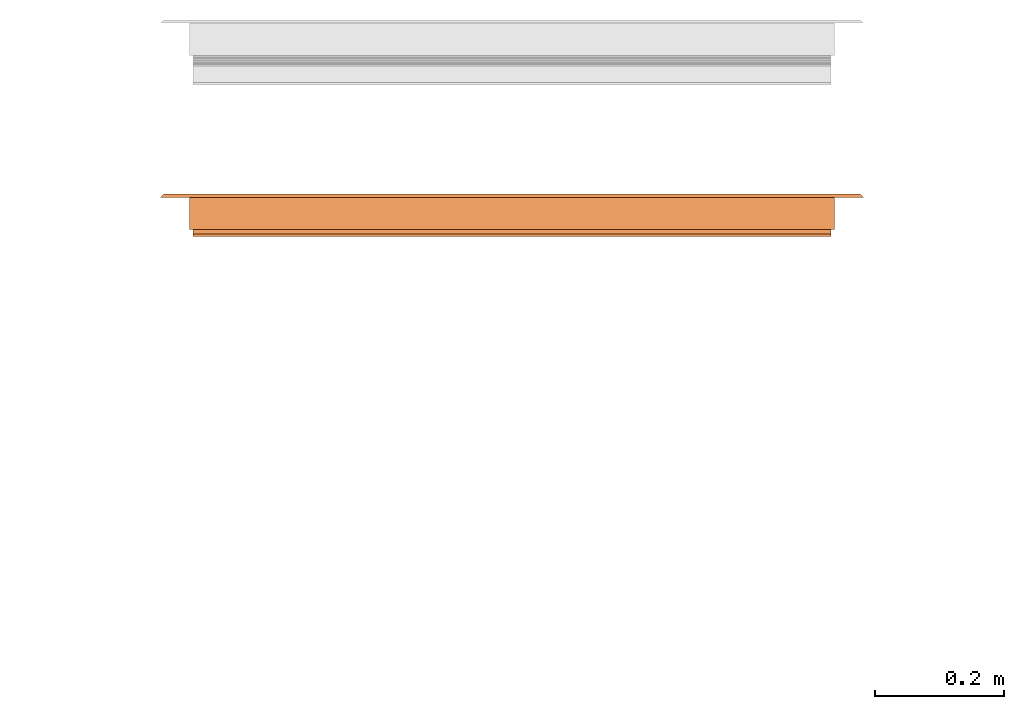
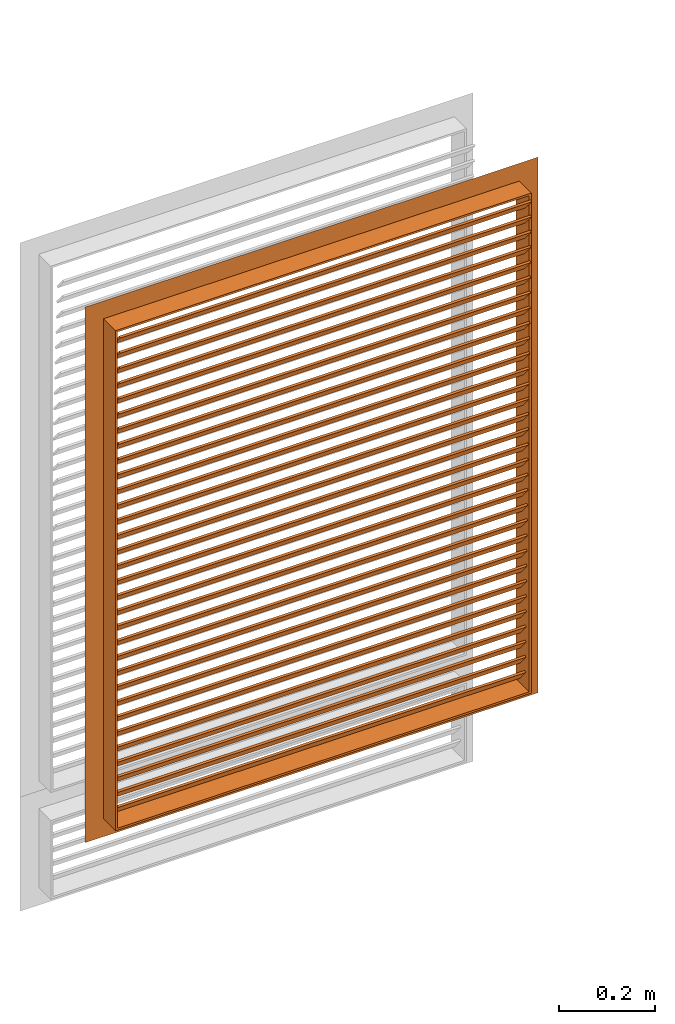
# One storey, part 3 of 5: 1 proxy.
"""IFC2X3 building model written with IfcOpenShell, lengths in centimetres."""

from ifc_helpers import new_model, entity, si_unit, converted_unit, derived_unit, direction, frame, origin, place, context, subcontext, project, spatial, faceted_brep, source, transform, mapped, material, type_object, type_shapes, element, save


model = new_model("IFC2X3")

# Units and contexts
model_context = context("Model", 3, precision=0.001, world=origin(), true_north=direction((6.12303176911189e-17, 1.0)))
body_context = subcontext(model_context, "Body", "Model", "MODEL_VIEW")
ifc_project = project(units=[si_unit("LENGTHUNIT", "METRE", prefix="CENTI"), si_unit("AREAUNIT", "SQUARE_METRE"), si_unit("VOLUMEUNIT", "CUBIC_METRE"), converted_unit("PLANEANGLEUNIT", "DEGREE", entity("IfcRatioMeasure", 0.0174532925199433), si_unit("PLANEANGLEUNIT", "RADIAN"), dimensions=[0, 0, 0, 0, 0, 0, 0]), si_unit("MASSUNIT", "GRAM", prefix="KILO"), si_unit("TIMEUNIT", "SECOND"), si_unit("FREQUENCYUNIT", "HERTZ"), si_unit("THERMODYNAMICTEMPERATUREUNIT", "DEGREE_CELSIUS"), derived_unit("THERMALTRANSMITTANCEUNIT", [(si_unit("MASSUNIT", "GRAM", prefix="KILO"), 1), (si_unit("THERMODYNAMICTEMPERATUREUNIT", "KELVIN"), -1), (si_unit("TIMEUNIT", "SECOND"), -3)]), derived_unit("VOLUMETRICFLOWRATEUNIT", [(si_unit("LENGTHUNIT", "METRE"), 3), (si_unit("TIMEUNIT", "SECOND"), -1)]), si_unit("ELECTRICCURRENTUNIT", "AMPERE"), si_unit("ELECTRICVOLTAGEUNIT", "VOLT"), si_unit("POWERUNIT", "WATT"), si_unit("FORCEUNIT", "NEWTON", prefix="KILO"), si_unit("ILLUMINANCEUNIT", "LUX"), si_unit("LUMINOUSFLUXUNIT", "LUMEN"), si_unit("LUMINOUSINTENSITYUNIT", "CANDELA"), derived_unit("USERDEFINED", [(si_unit("MASSUNIT", "GRAM", prefix="KILO"), -1), (si_unit("LENGTHUNIT", "METRE"), -2), (si_unit("TIMEUNIT", "SECOND"), 3), (si_unit("LUMINOUSFLUXUNIT", "LUMEN"), 1)]), derived_unit("LINEARVELOCITYUNIT", [(si_unit("LENGTHUNIT", "METRE"), 1), (si_unit("TIMEUNIT", "SECOND"), -1)]), si_unit("PRESSUREUNIT", "PASCAL"), derived_unit("USERDEFINED", [(si_unit("LENGTHUNIT", "METRE"), -2), (si_unit("MASSUNIT", "GRAM", prefix="KILO"), 1), (si_unit("TIMEUNIT", "SECOND"), -2)])], contexts=[model_context])

# Site, building, storey
site_placement = place(None, frame((8.62739174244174, -249.285249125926, 0.0)))
site = spatial("IfcSite", under=ifc_project, at=site_placement, Name="Default", CompositionType="ELEMENT")
building_placement = place(site_placement, origin())
building = spatial("IfcBuilding", under=site, at=building_placement, CompositionType="ELEMENT")
storey_placement = place(building_placement, frame((0.0, 0.0, 410.0)))
storey = spatial("IfcBuildingStorey", under=building, at=storey_placement, Name="Acrotère E1", CompositionType="ELEMENT", Elevation=410.000000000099)

# Proxy
ifc_material = material(Name="Acier - Galvanisé")
building_element_proxy_type = type_object("IfcBuildingElementProxyType", Name="1000 x 800 mm", PredefinedType="NOTDEFINED", material=ifc_material)
shared_shape = source(origin(), body_context, "Body", "Brep", [
    faceted_brep([(104.011775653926, 2.41935483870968, 12.9856666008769), (104.011775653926, 4.99050527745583, 9.92148882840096), (104.011775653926, 5.37352749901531, 10.2428826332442), (104.011775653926, 2.80237706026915, 13.3070604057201), (5.01177565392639, 2.41935483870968, 12.9856666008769), (5.01177565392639, 2.80237706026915, 13.3070604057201), (5.01177565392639, 5.37352749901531, 10.2428826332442), (5.01177565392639, 4.99050527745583, 9.92148882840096)], [[[0, 1, 2, 3]], [[4, 5, 6, 7]], [[1, 0, 4, 7]], [[2, 1, 7, 6]], [[3, 2, 6, 5]], [[0, 3, 5, 4]]]),
    faceted_brep([(104.011775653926, 2.33870967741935, 16.8953797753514), (104.011775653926, 4.90986011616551, 13.8312020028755), (104.011775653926, 5.29288233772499, 14.1525958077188), (104.011775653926, 2.72173189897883, 17.2167735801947), (5.01177565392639, 2.33870967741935, 16.8953797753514), (5.01177565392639, 2.72173189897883, 17.2167735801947), (5.01177565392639, 5.29288233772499, 14.1525958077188), (5.01177565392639, 4.90986011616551, 13.8312020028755)], [[[0, 1, 2, 3]], [[4, 5, 6, 7]], [[1, 0, 4, 7]], [[2, 1, 7, 6]], [[3, 2, 6, 5]], [[0, 3, 5, 4]]]),
    faceted_brep([(104.011775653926, 2.25806451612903, 20.8050929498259), (104.011775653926, 4.82921495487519, 17.74091517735), (104.011775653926, 5.21223717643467, 18.0623089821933), (104.011775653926, 2.64108673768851, 21.1264867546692), (5.01177565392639, 2.25806451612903, 20.8050929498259), (5.01177565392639, 2.64108673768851, 21.1264867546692), (5.01177565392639, 5.21223717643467, 18.0623089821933), (5.01177565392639, 4.82921495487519, 17.74091517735)], [[[0, 1, 2, 3]], [[4, 5, 6, 7]], [[1, 0, 4, 7]], [[2, 1, 7, 6]], [[3, 2, 6, 5]], [[0, 3, 5, 4]]]),
    faceted_brep([(104.011775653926, 2.17741935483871, 24.7148061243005), (104.011775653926, 4.74856979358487, 21.6506283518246), (104.011775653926, 5.13159201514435, 21.9720221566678), (104.011775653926, 2.56044157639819, 25.0361999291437), (5.01177565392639, 2.17741935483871, 24.7148061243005), (5.01177565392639, 2.56044157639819, 25.0361999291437), (5.01177565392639, 5.13159201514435, 21.9720221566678), (5.01177565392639, 4.74856979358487, 21.6506283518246)], [[[0, 1, 2, 3]], [[4, 5, 6, 7]], [[1, 0, 4, 7]], [[2, 1, 7, 6]], [[3, 2, 6, 5]], [[0, 3, 5, 4]]]),
    faceted_brep([(104.011775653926, 2.09677419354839, 28.624519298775), (104.011775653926, 4.66792463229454, 25.5603415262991), (104.011775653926, 5.05094685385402, 25.8817353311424), (104.011775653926, 2.47979641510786, 28.9459131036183), (5.01177565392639, 2.09677419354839, 28.624519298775), (5.01177565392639, 2.47979641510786, 28.9459131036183), (5.01177565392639, 5.05094685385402, 25.8817353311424), (5.01177565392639, 4.66792463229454, 25.5603415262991)], [[[0, 1, 2, 3]], [[4, 5, 6, 7]], [[1, 0, 4, 7]], [[2, 1, 7, 6]], [[3, 2, 6, 5]], [[0, 3, 5, 4]]]),
    faceted_brep([(104.011775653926, 2.01612903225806, 32.5342324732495), (104.011775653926, 4.58727947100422, 29.4700547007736), (104.011775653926, 4.9703016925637, 29.7914485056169), (104.011775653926, 2.39915125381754, 32.8556262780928), (5.01177565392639, 2.01612903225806, 32.5342324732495), (5.01177565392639, 2.39915125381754, 32.8556262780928), (5.01177565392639, 4.9703016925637, 29.7914485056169), (5.01177565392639, 4.58727947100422, 29.4700547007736)], [[[0, 1, 2, 3]], [[4, 5, 6, 7]], [[1, 0, 4, 7]], [[2, 1, 7, 6]], [[3, 2, 6, 5]], [[0, 3, 5, 4]]]),
    faceted_brep([(104.011775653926, 1.93548387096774, 36.443945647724), (104.011775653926, 4.5066343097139, 33.3797678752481), (104.011775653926, 4.88965653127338, 33.7011616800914), (104.011775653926, 2.31850609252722, 36.7653394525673), (5.01177565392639, 1.93548387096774, 36.443945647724), (5.01177565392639, 2.31850609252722, 36.7653394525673), (5.01177565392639, 4.88965653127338, 33.7011616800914), (5.01177565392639, 4.5066343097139, 33.3797678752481)], [[[0, 1, 2, 3]], [[4, 5, 6, 7]], [[1, 0, 4, 7]], [[2, 1, 7, 6]], [[3, 2, 6, 5]], [[0, 3, 5, 4]]]),
    faceted_brep([(104.011775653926, 1.85483870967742, 40.3536588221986), (104.011775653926, 4.42598914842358, 37.2894810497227), (104.011775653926, 4.80901136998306, 37.610874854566), (104.011775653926, 2.2378609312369, 40.6750526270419), (5.01177565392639, 1.85483870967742, 40.3536588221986), (5.01177565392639, 2.2378609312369, 40.6750526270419), (5.01177565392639, 4.80901136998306, 37.610874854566), (5.01177565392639, 4.42598914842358, 37.2894810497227)], [[[0, 1, 2, 3]], [[4, 5, 6, 7]], [[1, 0, 4, 7]], [[2, 1, 7, 6]], [[3, 2, 6, 5]], [[0, 3, 5, 4]]]),
    faceted_brep([(104.011775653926, 1.7741935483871, 44.2633719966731), (104.011775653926, 4.34534398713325, 41.1991942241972), (104.011775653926, 4.72836620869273, 41.5205880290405), (104.011775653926, 2.15721576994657, 44.5847658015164), (5.01177565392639, 1.7741935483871, 44.2633719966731), (5.01177565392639, 2.15721576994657, 44.5847658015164), (5.01177565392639, 4.72836620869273, 41.5205880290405), (5.01177565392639, 4.34534398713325, 41.1991942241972)], [[[0, 1, 2, 3]], [[4, 5, 6, 7]], [[1, 0, 4, 7]], [[2, 1, 7, 6]], [[3, 2, 6, 5]], [[0, 3, 5, 4]]]),
    faceted_brep([(104.011775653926, 1.69354838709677, 48.1730851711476), (104.011775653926, 4.26469882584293, 45.1089073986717), (104.011775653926, 4.64772104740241, 45.430301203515), (104.011775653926, 2.07657060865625, 48.4944789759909), (5.01177565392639, 1.69354838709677, 48.1730851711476), (5.01177565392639, 2.07657060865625, 48.4944789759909), (5.01177565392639, 4.64772104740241, 45.430301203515), (5.01177565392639, 4.26469882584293, 45.1089073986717)], [[[0, 1, 2, 3]], [[4, 5, 6, 7]], [[1, 0, 4, 7]], [[2, 1, 7, 6]], [[3, 2, 6, 5]], [[0, 3, 5, 4]]]),
    faceted_brep([(104.011775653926, 1.61290322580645, 52.0827983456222), (104.011775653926, 4.18405366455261, 49.0186205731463), (104.011775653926, 4.56707588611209, 49.3400143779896), (104.011775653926, 1.99592544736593, 52.4041921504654), (5.01177565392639, 1.61290322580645, 52.0827983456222), (5.01177565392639, 1.99592544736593, 52.4041921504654), (5.01177565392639, 4.56707588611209, 49.3400143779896), (5.01177565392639, 4.18405366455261, 49.0186205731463)], [[[0, 1, 2, 3]], [[4, 5, 6, 7]], [[1, 0, 4, 7]], [[2, 1, 7, 6]], [[3, 2, 6, 5]], [[0, 3, 5, 4]]]),
    faceted_brep([(104.011775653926, 1.53225806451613, 55.9925115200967), (104.011775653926, 4.10340850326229, 52.9283337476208), (104.011775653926, 4.48643072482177, 53.2497275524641), (104.011775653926, 1.91528028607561, 56.31390532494), (5.01177565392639, 1.53225806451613, 55.9925115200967), (5.01177565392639, 1.91528028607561, 56.31390532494), (5.01177565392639, 4.48643072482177, 53.2497275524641), (5.01177565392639, 4.10340850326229, 52.9283337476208)], [[[0, 1, 2, 3]], [[4, 5, 6, 7]], [[1, 0, 4, 7]], [[2, 1, 7, 6]], [[3, 2, 6, 5]], [[0, 3, 5, 4]]]),
    faceted_brep([(104.011775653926, 1.45161290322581, 59.9022246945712), (104.011775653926, 4.02276334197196, 56.8380469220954), (104.011775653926, 4.40578556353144, 57.1594407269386), (104.011775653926, 1.83463512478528, 60.2236184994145), (5.01177565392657, 1.45161290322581, 59.9022246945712), (5.01177565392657, 1.83463512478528, 60.2236184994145), (5.01177565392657, 4.40578556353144, 57.1594407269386), (5.01177565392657, 4.02276334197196, 56.8380469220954)], [[[0, 1, 2, 3]], [[4, 5, 6, 7]], [[1, 0, 4, 7]], [[2, 1, 7, 6]], [[3, 2, 6, 5]], [[0, 3, 5, 4]]]),
    faceted_brep([(104.011775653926, 1.37096774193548, 63.8119378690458), (104.011775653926, 3.94211818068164, 60.7477600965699), (104.011775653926, 4.32514040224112, 61.0691539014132), (104.011775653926, 1.75398996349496, 64.1333316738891), (5.01177565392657, 1.37096774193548, 63.8119378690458), (5.01177565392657, 1.75398996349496, 64.1333316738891), (5.01177565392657, 4.32514040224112, 61.0691539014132), (5.01177565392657, 3.94211818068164, 60.7477600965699)], [[[0, 1, 2, 3]], [[4, 5, 6, 7]], [[1, 0, 4, 7]], [[2, 1, 7, 6]], [[3, 2, 6, 5]], [[0, 3, 5, 4]]]),
    faceted_brep([(104.011775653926, 1.29032258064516, 67.7216510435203), (104.011775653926, 3.86147301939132, 64.6574732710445), (104.011775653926, 4.2444952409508, 64.9788670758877), (104.011775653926, 1.67334480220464, 68.0430448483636), (5.01177565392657, 1.29032258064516, 67.7216510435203), (5.01177565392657, 1.67334480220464, 68.0430448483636), (5.01177565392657, 4.2444952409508, 64.9788670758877), (5.01177565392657, 3.86147301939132, 64.6574732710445)], [[[0, 1, 2, 3]], [[4, 5, 6, 7]], [[1, 0, 4, 7]], [[2, 1, 7, 6]], [[3, 2, 6, 5]], [[0, 3, 5, 4]]]),
    faceted_brep([(104.011775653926, 1.20967741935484, 71.6313642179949), (104.011775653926, 3.780827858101, 68.567186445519), (104.011775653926, 4.16385007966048, 68.8885802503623), (104.011775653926, 1.59269964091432, 71.9527580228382), (5.01177565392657, 1.20967741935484, 71.6313642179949), (5.01177565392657, 1.59269964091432, 71.9527580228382), (5.01177565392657, 4.16385007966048, 68.8885802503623), (5.01177565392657, 3.780827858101, 68.567186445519)], [[[0, 1, 2, 3]], [[4, 5, 6, 7]], [[1, 0, 4, 7]], [[2, 1, 7, 6]], [[3, 2, 6, 5]], [[0, 3, 5, 4]]]),
    faceted_brep([(104.011775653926, 1.12903225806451, 75.5410773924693), (104.011775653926, 3.70018269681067, 72.4768996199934), (104.011775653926, 4.08320491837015, 72.7982934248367), (104.011775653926, 1.51205447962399, 75.8624711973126), (5.01177565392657, 1.12903225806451, 75.5410773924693), (5.01177565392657, 1.51205447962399, 75.8624711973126), (5.01177565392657, 4.08320491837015, 72.7982934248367), (5.01177565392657, 3.70018269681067, 72.4768996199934)], [[[0, 1, 2, 3]], [[4, 5, 6, 7]], [[1, 0, 4, 7]], [[2, 1, 7, 6]], [[3, 2, 6, 5]], [[0, 3, 5, 4]]]),
    faceted_brep([(104.011775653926, 1.04838709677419, 79.4507905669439), (104.011775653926, 3.61953753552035, 76.386612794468), (104.011775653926, 4.00255975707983, 76.7080065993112), (104.011775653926, 1.43140931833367, 79.7721843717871), (5.01177565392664, 1.04838709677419, 79.4507905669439), (5.01177565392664, 1.43140931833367, 79.7721843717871), (5.01177565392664, 4.00255975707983, 76.7080065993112), (5.01177565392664, 3.61953753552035, 76.386612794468)], [[[0, 1, 2, 3]], [[4, 5, 6, 7]], [[1, 0, 4, 7]], [[2, 1, 7, 6]], [[3, 2, 6, 5]], [[0, 3, 5, 4]]]),
    faceted_brep([(104.011775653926, 0.967741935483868, 83.3605037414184), (104.011775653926, 3.53889237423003, 80.2963259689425), (104.011775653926, 3.92191459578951, 80.6177197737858), (104.011775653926, 1.35076415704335, 83.6818975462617), (5.01177565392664, 0.967741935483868, 83.3605037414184), (5.01177565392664, 1.35076415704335, 83.6818975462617), (5.01177565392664, 3.92191459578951, 80.6177197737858), (5.01177565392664, 3.53889237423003, 80.2963259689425)], [[[0, 1, 2, 3]], [[4, 5, 6, 7]], [[1, 0, 4, 7]], [[2, 1, 7, 6]], [[3, 2, 6, 5]], [[0, 3, 5, 4]]]),
    faceted_brep([(104.011775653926, 0.887096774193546, 87.2702169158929), (104.011775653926, 3.45824721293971, 84.2060391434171), (104.011775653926, 3.84126943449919, 84.5274329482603), (104.011775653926, 1.27011899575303, 87.5916107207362), (5.01177565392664, 0.887096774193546, 87.2702169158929), (5.01177565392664, 1.27011899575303, 87.5916107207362), (5.01177565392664, 3.84126943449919, 84.5274329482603), (5.01177565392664, 3.45824721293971, 84.2060391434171)], [[[0, 1, 2, 3]], [[4, 5, 6, 7]], [[1, 0, 4, 7]], [[2, 1, 7, 6]], [[3, 2, 6, 5]], [[0, 3, 5, 4]]]),
    faceted_brep([(104.011775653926, 0.806451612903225, 91.1799300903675), (104.011775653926, 3.37760205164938, 88.1157523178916), (104.011775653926, 3.76062427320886, 88.4371461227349), (104.011775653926, 1.1894738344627, 91.5013238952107), (5.01177565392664, 0.806451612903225, 91.1799300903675), (5.01177565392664, 1.1894738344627, 91.5013238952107), (5.01177565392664, 3.76062427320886, 88.4371461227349), (5.01177565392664, 3.37760205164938, 88.1157523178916)], [[[0, 1, 2, 3]], [[4, 5, 6, 7]], [[1, 0, 4, 7]], [[2, 1, 7, 6]], [[3, 2, 6, 5]], [[0, 3, 5, 4]]]),
    faceted_brep([(104.011775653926, 0.725806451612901, 95.089643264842), (104.011775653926, 3.29695689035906, 92.0254654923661), (104.011775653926, 3.67997911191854, 92.3468592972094), (104.011775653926, 1.10882867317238, 95.4110370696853), (5.01177565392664, 0.725806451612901, 95.089643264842), (5.01177565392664, 1.10882867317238, 95.4110370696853), (5.01177565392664, 3.67997911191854, 92.3468592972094), (5.01177565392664, 3.29695689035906, 92.0254654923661)], [[[0, 1, 2, 3]], [[4, 5, 6, 7]], [[1, 0, 4, 7]], [[2, 1, 7, 6]], [[3, 2, 6, 5]], [[0, 3, 5, 4]]]),
    faceted_brep([(104.011775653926, 0.64516129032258, 98.9993564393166), (104.011775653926, 3.21631172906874, 95.9351786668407), (104.011775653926, 3.59933395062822, 96.256572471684), (104.011775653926, 1.02818351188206, 99.3207502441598), (5.01177565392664, 0.64516129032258, 98.9993564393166), (5.01177565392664, 1.02818351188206, 99.3207502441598), (5.01177565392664, 3.59933395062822, 96.256572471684), (5.01177565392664, 3.21631172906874, 95.9351786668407)], [[[0, 1, 2, 3]], [[4, 5, 6, 7]], [[1, 0, 4, 7]], [[2, 1, 7, 6]], [[3, 2, 6, 5]], [[0, 3, 5, 4]]]),
    faceted_brep([(104.011775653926, 0.564516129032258, 102.909069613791), (104.011775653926, 3.13566656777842, 99.8448918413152), (104.011775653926, 3.5186887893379, 100.166285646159), (104.011775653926, 0.947538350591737, 103.230463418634), (5.01177565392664, 0.564516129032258, 102.909069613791), (5.01177565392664, 0.947538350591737, 103.230463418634), (5.01177565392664, 3.5186887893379, 100.166285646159), (5.01177565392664, 3.13566656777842, 99.8448918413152)], [[[0, 1, 2, 3]], [[4, 5, 6, 7]], [[1, 0, 4, 7]], [[2, 1, 7, 6]], [[3, 2, 6, 5]], [[0, 3, 5, 4]]]),
    faceted_brep([(104.011775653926, 0.483870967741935, 106.818782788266), (104.011775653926, 3.05502140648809, 103.75460501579), (104.011775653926, 3.43804362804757, 104.075998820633), (104.011775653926, 0.866893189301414, 107.140176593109), (5.01177565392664, 0.483870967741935, 106.818782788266), (5.01177565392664, 0.866893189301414, 107.140176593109), (5.01177565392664, 3.43804362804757, 104.075998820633), (5.01177565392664, 3.05502140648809, 103.75460501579)], [[[0, 1, 2, 3]], [[4, 5, 6, 7]], [[1, 0, 4, 7]], [[2, 1, 7, 6]], [[3, 2, 6, 5]], [[0, 3, 5, 4]]]),
    faceted_brep([(104.011775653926, 0.403225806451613, 110.72849596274), (104.011775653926, 2.97437624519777, 107.664318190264), (104.011775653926, 3.35739846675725, 107.985711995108), (104.011775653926, 0.786248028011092, 111.049889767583), (5.01177565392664, 0.403225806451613, 110.72849596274), (5.01177565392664, 0.786248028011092, 111.049889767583), (5.01177565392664, 3.35739846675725, 107.985711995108), (5.01177565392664, 2.97437624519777, 107.664318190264)], [[[0, 1, 2, 3]], [[4, 5, 6, 7]], [[1, 0, 4, 7]], [[2, 1, 7, 6]], [[3, 2, 6, 5]], [[0, 3, 5, 4]]]),
    faceted_brep([(104.011775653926, 0.322580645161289, 114.638209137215), (104.011775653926, 2.89373108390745, 111.574031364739), (104.011775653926, 3.27675330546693, 111.895425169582), (104.011775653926, 0.705602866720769, 114.959602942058), (5.01177565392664, 0.322580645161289, 114.638209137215), (5.01177565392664, 0.705602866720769, 114.959602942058), (5.01177565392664, 3.27675330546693, 111.895425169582), (5.01177565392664, 2.89373108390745, 111.574031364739)], [[[0, 1, 2, 3]], [[4, 5, 6, 7]], [[1, 0, 4, 7]], [[2, 1, 7, 6]], [[3, 2, 6, 5]], [[0, 3, 5, 4]]]),
    faceted_brep([(104.011775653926, 0.241935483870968, 118.547922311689), (104.011775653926, 2.81308592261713, 115.483744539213), (104.011775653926, 3.19610814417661, 115.805138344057), (104.011775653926, 0.624957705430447, 118.869316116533), (5.01177565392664, 0.241935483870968, 118.547922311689), (5.01177565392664, 0.624957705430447, 118.869316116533), (5.01177565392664, 3.19610814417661, 115.805138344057), (5.01177565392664, 2.81308592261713, 115.483744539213)], [[[0, 1, 2, 3]], [[4, 5, 6, 7]], [[1, 0, 4, 7]], [[2, 1, 7, 6]], [[3, 2, 6, 5]], [[0, 3, 5, 4]]]),
    faceted_brep([(104.011775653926, 0.161290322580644, 122.457635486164), (104.011775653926, 2.7324407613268, 119.393457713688), (104.011775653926, 3.11546298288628, 119.714851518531), (104.011775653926, 0.544312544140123, 122.779029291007), (5.01177565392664, 0.161290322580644, 122.457635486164), (5.01177565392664, 0.544312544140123, 122.779029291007), (5.01177565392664, 3.11546298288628, 119.714851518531), (5.01177565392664, 2.7324407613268, 119.393457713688)], [[[0, 1, 2, 3]], [[4, 5, 6, 7]], [[1, 0, 4, 7]], [[2, 1, 7, 6]], [[3, 2, 6, 5]], [[0, 3, 5, 4]]]),
    faceted_brep([(104.011775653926, 0.0806451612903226, 126.367348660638), (104.011775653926, 2.65179560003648, 123.303170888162), (104.011775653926, 3.03481782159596, 123.624564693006), (104.011775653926, 0.463667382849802, 126.688742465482), (5.01177565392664, 0.0806451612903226, 126.367348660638), (5.01177565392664, 0.463667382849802, 126.688742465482), (5.01177565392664, 3.03481782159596, 123.624564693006), (5.01177565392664, 2.65179560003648, 123.303170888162)], [[[0, 1, 2, 3]], [[4, 5, 6, 7]], [[1, 0, 4, 7]], [[2, 1, 7, 6]], [[3, 2, 6, 5]], [[0, 3, 5, 4]]]),
    faceted_brep([(104.011775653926, 2.5, 9.07595342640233), (104.011775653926, 5.07115043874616, 6.01177565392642), (104.011775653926, 5.45417266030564, 6.3331694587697), (104.011775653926, 2.88302222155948, 9.39734723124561), (5.01177565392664, 2.5, 9.07595342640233), (5.01177565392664, 2.88302222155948, 9.39734723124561), (5.01177565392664, 5.45417266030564, 6.3331694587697), (5.01177565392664, 5.07115043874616, 6.01177565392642)], [[[0, 1, 2, 3]], [[4, 5, 6, 7]], [[1, 0, 4, 7]], [[2, 1, 7, 6]], [[3, 2, 6, 5]], [[0, 3, 5, 4]]]),
    faceted_brep([(104.011775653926, 0.0, 130.277061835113), (104.011775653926, 2.57115043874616, 127.212884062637), (104.011775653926, 2.95417266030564, 127.53427786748), (104.011775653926, 0.383022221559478, 130.598455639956), (5.01177565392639, 0.0, 130.277061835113), (5.01177565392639, 0.383022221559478, 130.598455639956), (5.01177565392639, 2.95417266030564, 127.53427786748), (5.01177565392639, 2.57115043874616, 127.212884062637)], [[[0, 1, 2, 3]], [[4, 5, 6, 7]], [[1, 0, 4, 7]], [[2, 1, 7, 6]], [[3, 2, 6, 5]], [[0, 3, 5, 4]]]),
    faceted_brep([(4.51177565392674, 1.07115043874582, 131.712884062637), (4.51177565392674, 6.07115043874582, 131.712884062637), (4.51177565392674, 6.07115043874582, 4.51177565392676), (4.51177565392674, 1.07115043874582, 4.51177565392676), (5.01177565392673, 6.57115043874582, 131.212884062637), (5.01177565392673, 1.07115043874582, 131.212884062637), (5.01177565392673, 1.07115043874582, 5.01177565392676), (5.01177565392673, 6.57115043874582, 5.01177565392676), (0.0, 6.07115043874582, 136.224659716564), (0.499999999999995, 6.57115043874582, 135.724659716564), (0.499999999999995, 6.57115043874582, 0.500000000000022), (0.0, 6.07115043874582, 0.0), (104.511775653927, 6.07115043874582, 4.51177565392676), (104.511775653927, 1.07115043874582, 4.51177565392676), (104.011775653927, 1.07115043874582, 5.01177565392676), (104.011775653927, 6.57115043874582, 5.01177565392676), (108.523551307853, 6.57115043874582, 0.500000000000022), (109.023551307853, 6.07115043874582, 0.0), (104.511775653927, 6.07115043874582, 131.712884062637), (104.511775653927, 1.07115043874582, 131.712884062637), (104.011775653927, 1.07115043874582, 131.212884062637), (104.011775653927, 6.57115043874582, 131.212884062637), (108.523551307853, 6.57115043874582, 135.724659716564), (109.023551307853, 6.07115043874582, 136.224659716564)], [[[0, 1, 2, 3]], [[4, 5, 6, 7]], [[8, 9, 10, 11]], [[3, 2, 12, 13]], [[7, 6, 14, 15]], [[11, 10, 16, 17]], [[13, 12, 18, 19]], [[15, 14, 20, 21]], [[17, 16, 22, 23]], [[19, 18, 1, 0]], [[3, 13, 19, 0], [5, 20, 14, 6]], [[21, 20, 5, 4]], [[7, 15, 21, 4], [9, 22, 16, 10]], [[23, 22, 9, 8]], [[11, 17, 23, 8], [1, 18, 12, 2]]], outer=[[True], [True], [True], [True], [True], [True], [True], [True], [True], [True], [True, False], [True], [False, True], [True], [True, False]]),
])
type_shapes(building_element_proxy_type, [shared_shape])
proxy_placement = place(storey_placement, frame((3611.39305210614, 6108.90905770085, 74.7753402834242)))
element("IfcBuildingElementProxy", 1, at=proxy_placement, inside=storey, type_object=building_element_proxy_type, material=ifc_material, Name="Grille d'aération-100x80:1000 x 800 mm", ObjectType="1000 x 800 mm", context=body_context, shape_type="MappedRepresentation", body=[
    mapped(shared_shape, transform((0.0, 0.0, 0.0), scale=1.0)),
])

save(model, "model.ifc")
